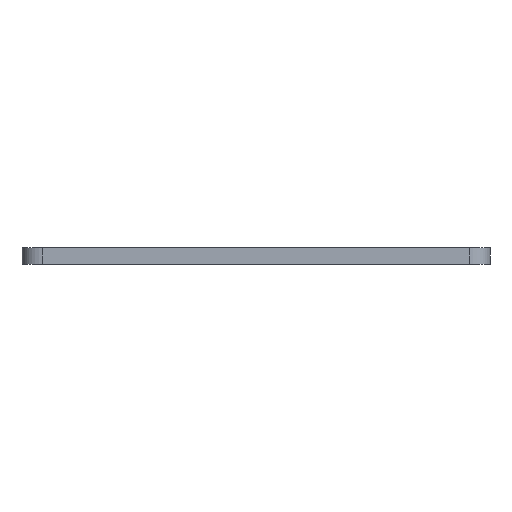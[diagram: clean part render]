
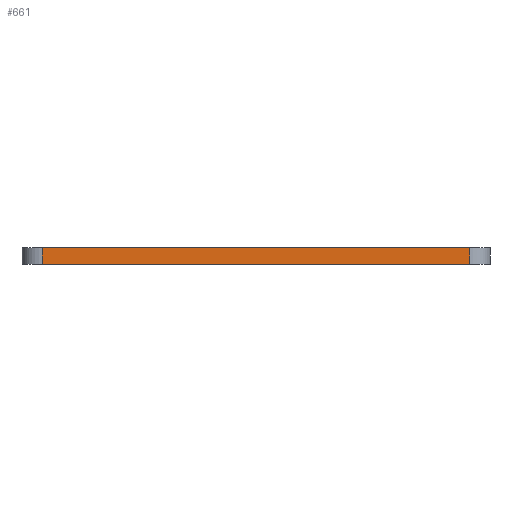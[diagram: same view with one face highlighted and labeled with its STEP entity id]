
A CAD part, front view. The second image highlights one B-rep face of the part: STEP entity #661.
In plain terms, the highlighted planar face has unit normal (0, -1, 0).
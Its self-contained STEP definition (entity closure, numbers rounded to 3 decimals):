
#41=PLANE('',#759);
#62=FACE_OUTER_BOUND('',#111,.T.);
#111=EDGE_LOOP('',(#560,#561,#562,#563));
#137=LINE('',#1026,#186);
#142=LINE('',#1076,#191);
#162=LINE('',#1149,#211);
#163=LINE('',#1151,#212);
#186=VECTOR('',#811,10.);
#191=VECTOR('',#860,10.);
#211=VECTOR('',#940,10.);
#212=VECTOR('',#943,10.);
#289=VERTEX_POINT('',#1023);
#290=VERTEX_POINT('',#1025);
#312=VERTEX_POINT('',#1073);
#313=VERTEX_POINT('',#1075);
#358=EDGE_CURVE('',#289,#290,#137,.T.);
#383=EDGE_CURVE('',#313,#312,#142,.T.);
#421=EDGE_CURVE('',#290,#312,#162,.T.);
#422=EDGE_CURVE('',#313,#289,#163,.T.);
#560=ORIENTED_EDGE('',*,*,#421,.F.);
#561=ORIENTED_EDGE('',*,*,#358,.F.);
#562=ORIENTED_EDGE('',*,*,#422,.F.);
#563=ORIENTED_EDGE('',*,*,#383,.T.);
#661=ADVANCED_FACE('',(#62),#41,.T.);
#759=AXIS2_PLACEMENT_3D('',#1150,#941,#942);
#811=DIRECTION('',(1.,0.,0.));
#860=DIRECTION('',(1.,0.,0.));
#940=DIRECTION('',(0.,0.,-1.));
#941=DIRECTION('center_axis',(0.,-1.,0.));
#942=DIRECTION('ref_axis',(1.,0.,0.));
#943=DIRECTION('',(0.,0.,1.));
#1023=CARTESIAN_POINT('',(6.,0.,5.));
#1025=CARTESIAN_POINT('',(134.,0.,5.));
#1026=CARTESIAN_POINT('',(0.,0.,5.));
#1073=CARTESIAN_POINT('',(134.,0.,0.));
#1075=CARTESIAN_POINT('',(6.,0.,0.));
#1076=CARTESIAN_POINT('',(0.,0.,0.));
#1149=CARTESIAN_POINT('',(134.,0.,0.));
#1150=CARTESIAN_POINT('Origin',(0.,0.,0.));
#1151=CARTESIAN_POINT('',(6.,0.,0.));
